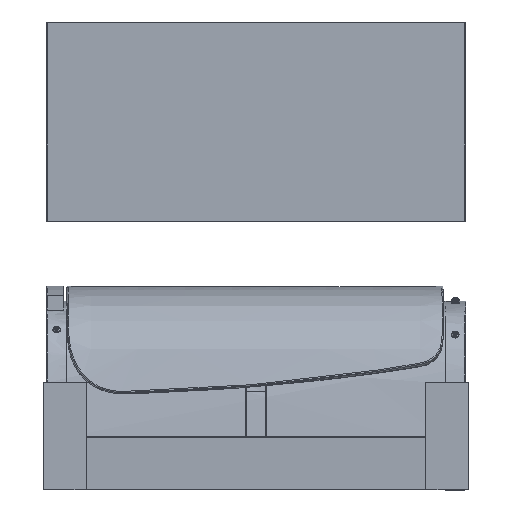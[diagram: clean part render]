
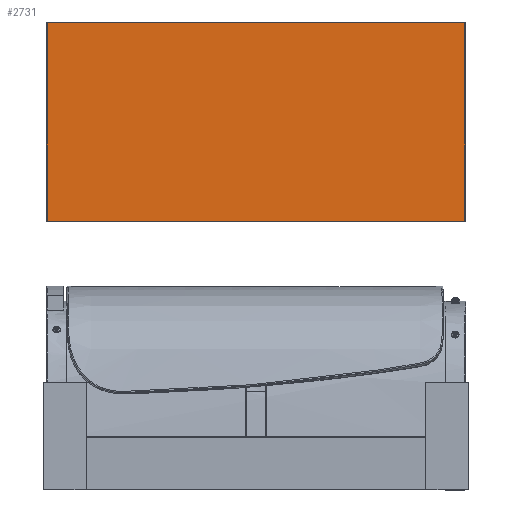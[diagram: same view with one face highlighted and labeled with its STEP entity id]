
A CAD part, left-side view. The second image highlights one B-rep face of the part: STEP entity #2731.
In plain terms, the highlighted planar face has unit normal (-1, 0, 0).
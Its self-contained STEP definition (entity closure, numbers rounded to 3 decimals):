
#2731=ADVANCED_FACE('',(#4406),#24066,.T.);
#4406=FACE_OUTER_BOUND('',#6084,.T.);
#6084=EDGE_LOOP('',(#9193,#9194,#9195,#9196));
#9193=ORIENTED_EDGE('',*,*,#15817,.T.);
#9194=ORIENTED_EDGE('',*,*,#15816,.T.);
#9195=ORIENTED_EDGE('',*,*,#15818,.T.);
#9196=ORIENTED_EDGE('',*,*,#15815,.F.);
#15815=EDGE_CURVE('',#22034,#22035,#19584,.T.);
#15816=EDGE_CURVE('',#22036,#22037,#19585,.T.);
#15817=EDGE_CURVE('',#22034,#22036,#19586,.T.);
#15818=EDGE_CURVE('',#22037,#22035,#19587,.T.);
#19584=B_SPLINE_CURVE_WITH_KNOTS('',1,(#37720,#37721),.UNSPECIFIED.,.F.,
 .F.,(2,2),(0.5,389.5),.UNSPECIFIED.);
#19585=B_SPLINE_CURVE_WITH_KNOTS('',1,(#37722,#37723),.UNSPECIFIED.,.F.,
 .F.,(2,2),(0.5,389.5),.UNSPECIFIED.);
#19586=B_SPLINE_CURVE_WITH_KNOTS('',1,(#37724,#37725),.UNSPECIFIED.,.F.,
 .F.,(2,2),(0.5,185.511),.UNSPECIFIED.);
#19587=B_SPLINE_CURVE_WITH_KNOTS('',1,(#37726,#37727),.UNSPECIFIED.,.F.,
 .F.,(2,2),(0.5,185.511),.UNSPECIFIED.);
#22034=VERTEX_POINT('',#37684);
#22035=VERTEX_POINT('',#37685);
#22036=VERTEX_POINT('',#37686);
#22037=VERTEX_POINT('',#37687);
#24066=PLANE('',#24753);
#24753=AXIS2_PLACEMENT_3D('',#37625,#25160,$);
#25160=DIRECTION('',(-1.,0.,0.));
#37625=CARTESIAN_POINT('',(-319.,-195.,435.638));
#37684=CARTESIAN_POINT('',(-319.,-194.5,250.126));
#37685=CARTESIAN_POINT('',(-319.,194.5,250.126));
#37686=CARTESIAN_POINT('',(-319.,-194.5,435.138));
#37687=CARTESIAN_POINT('',(-319.,194.5,435.138));
#37720=CARTESIAN_POINT('',(-319.,-194.5,250.126));
#37721=CARTESIAN_POINT('',(-319.,194.5,250.126));
#37722=CARTESIAN_POINT('',(-319.,-194.5,435.138));
#37723=CARTESIAN_POINT('',(-319.,194.5,435.138));
#37724=CARTESIAN_POINT('',(-319.,-194.5,250.126));
#37725=CARTESIAN_POINT('',(-319.,-194.5,435.138));
#37726=CARTESIAN_POINT('',(-319.,194.5,435.138));
#37727=CARTESIAN_POINT('',(-319.,194.5,250.126));
